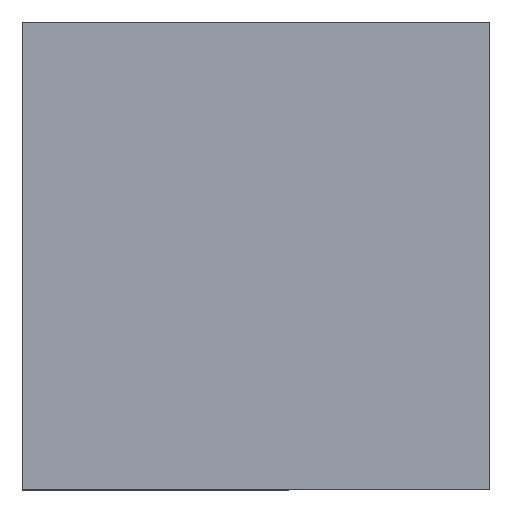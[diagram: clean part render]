
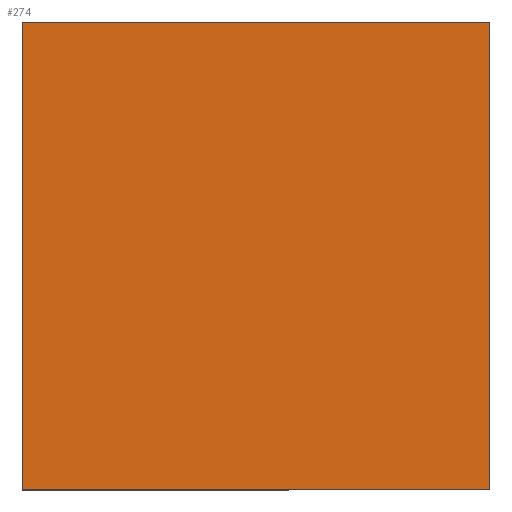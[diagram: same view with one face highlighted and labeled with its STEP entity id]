
A CAD part, top view. The second image highlights one B-rep face of the part: STEP entity #274.
In plain terms, the highlighted planar face has unit normal (0, 0, 1).
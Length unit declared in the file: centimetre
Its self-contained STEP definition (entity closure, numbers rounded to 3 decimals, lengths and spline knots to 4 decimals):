
#3 = DIRECTION ( 'NONE',  ( 0., 1., 0. ) ) ;
#30 = CARTESIAN_POINT ( 'NONE',  ( 0., 1000., 1000. ) ) ;
#37 = VECTOR ( 'NONE', #218, 100. ) ;
#43 = ORIENTED_EDGE ( 'NONE', *, *, #484, .T. ) ;
#57 = VERTEX_POINT ( 'NONE', #545 ) ;
#69 = EDGE_CURVE ( 'NONE', #537, #57, #552, .T. ) ;
#72 = VECTOR ( 'NONE', #323, 100. ) ;
#81 = DIRECTION ( 'NONE',  ( -1., 0., 0. ) ) ;
#100 = VECTOR ( 'NONE', #3, 100. ) ;
#139 = CARTESIAN_POINT ( 'NONE',  ( 1000., 1000., 1000. ) ) ;
#145 = DIRECTION ( 'NONE',  ( 1., 0., 0. ) ) ;
#163 = LINE ( 'NONE', #440, #37 ) ;
#175 = AXIS2_PLACEMENT_3D ( 'NONE', #476, #580, #145 ) ;
#182 = EDGE_LOOP ( 'NONE', ( #43, #445, #246, #277 ) ) ;
#186 = CARTESIAN_POINT ( 'NONE',  ( 1000., 0., 1000. ) ) ;
#218 = DIRECTION ( 'NONE',  ( 1., 0., 0. ) ) ;
#229 = CARTESIAN_POINT ( 'NONE',  ( 0., 1000., 1000. ) ) ;
#246 = ORIENTED_EDGE ( 'NONE', *, *, #69, .T. ) ;
#267 = LINE ( 'NONE', #30, #72 ) ;
#274 = ADVANCED_FACE ( 'NONE', ( #576 ), #437, .T. ) ;
#277 = ORIENTED_EDGE ( 'NONE', *, *, #327, .T. ) ;
#314 = LINE ( 'NONE', #229, #572 ) ;
#323 = DIRECTION ( 'NONE',  ( 0., -1., 0. ) ) ;
#327 = EDGE_CURVE ( 'NONE', #57, #570, #314, .T. ) ;
#437 = PLANE ( 'NONE',  #175 ) ;
#440 = CARTESIAN_POINT ( 'NONE',  ( 0., 0., 1000. ) ) ;
#445 = ORIENTED_EDGE ( 'NONE', *, *, #452, .T. ) ;
#452 = EDGE_CURVE ( 'NONE', #529, #537, #163, .T. ) ;
#476 = CARTESIAN_POINT ( 'NONE',  ( 0., 0., 1000. ) ) ;
#484 = EDGE_CURVE ( 'NONE', #570, #529, #267, .T. ) ;
#529 = VERTEX_POINT ( 'NONE', #598 ) ;
#537 = VERTEX_POINT ( 'NONE', #186 ) ;
#545 = CARTESIAN_POINT ( 'NONE',  ( 1000., 1000., 1000. ) ) ;
#552 = LINE ( 'NONE', #139, #100 ) ;
#553 = CARTESIAN_POINT ( 'NONE',  ( 0., 1000., 1000. ) ) ;
#570 = VERTEX_POINT ( 'NONE', #553 ) ;
#572 = VECTOR ( 'NONE', #81, 100. ) ;
#576 = FACE_OUTER_BOUND ( 'NONE', #182, .T. ) ;
#580 = DIRECTION ( 'NONE',  ( 0., 0., 1. ) ) ;
#598 = CARTESIAN_POINT ( 'NONE',  ( 0., 0., 1000. ) ) ;
